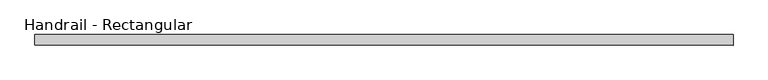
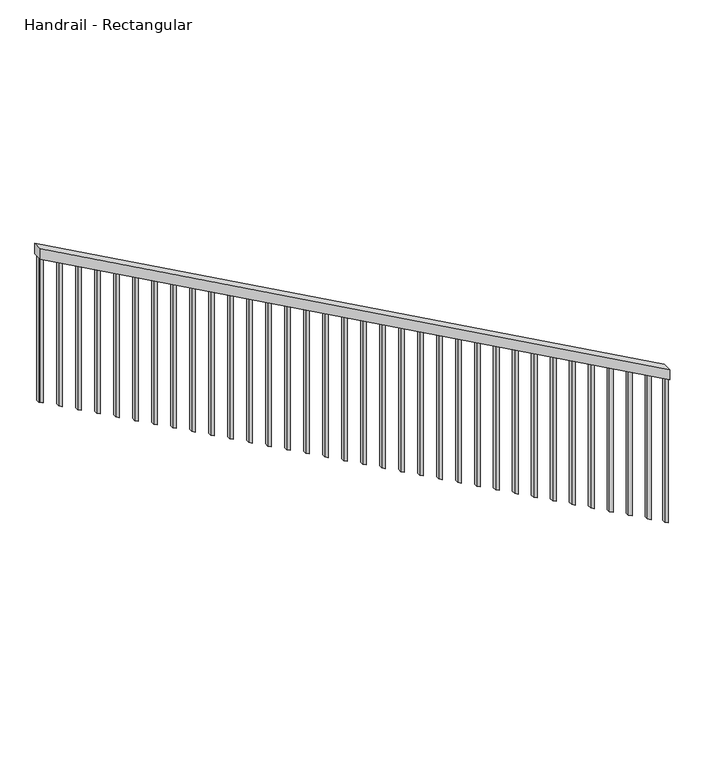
"""IFC4 building model written with IfcOpenShell, lengths in millimetres: railing geometry, Handrail - Rectangular."""

from ifc_helpers import new_model, si_unit, frame, origin, place, context, project, spatial, polyline, outline, extrude, source, transform, mapped, element, save


def handrail_rectangular_e08f16bb(model_context):
    return source(origin(), model_context, "Body", "SweptSolid", [
        extrude(outline(polyline([(4285.3496079, 92954.1951063), (4343.4, 92954.1951063), (6206.0666667, 89585.9544789), (6148.0162746, 89585.9544789), (4285.3496079, 92954.1951063)])), frame((0.0, 10368.4546943, 0.0), z_axis=(0.0, 1.0, 0.0), x_axis=(0.0, 0.0, 1.0)), (0.0, 0.0, 1.0), 50.8),
        extrude(outline(polyline([(6134.2100632, 89610.9201063), (6144.7448807, 89591.8701063), (5326.4432727, 89591.8701063), (5315.9084553, 89610.9201063), (6134.2100632, 89610.9201063)])), frame((0.0, 10384.3296943, 0.0), z_axis=(0.0, 1.0, 0.0), x_axis=(0.0, 0.0, 1.0)), (0.0, 0.0, 1.0), 19.05),
        extrude(outline(polyline([(6078.0243704, 89712.5201063), (6088.5591878, 89693.4701063), (5270.2575799, 89693.4701063), (5259.7227625, 89712.5201063), (6078.0243704, 89712.5201063)])), frame((0.0, 10384.3296943, 0.0), z_axis=(0.0, 1.0, 0.0), x_axis=(0.0, 0.0, 1.0)), (0.0, 0.0, 1.0), 19.05),
        extrude(outline(polyline([(6021.8386775, 89814.1201063), (6032.373495, 89795.0701063), (5214.071887, 89795.0701063), (5203.5370696, 89814.1201063), (6021.8386775, 89814.1201063)])), frame((0.0, 10384.3296943, 0.0), z_axis=(0.0, 1.0, 0.0), x_axis=(0.0, 0.0, 1.0)), (0.0, 0.0, 1.0), 19.05),
        extrude(outline(polyline([(5965.6529847, 89915.7201063), (5976.1878021, 89896.6701063), (5157.8861942, 89896.6701063), (5147.3513768, 89915.7201063), (5965.6529847, 89915.7201063)])), frame((0.0, 10384.3296943, 0.0), z_axis=(0.0, 1.0, 0.0), x_axis=(0.0, 0.0, 1.0)), (0.0, 0.0, 1.0), 19.05),
        extrude(outline(polyline([(5909.4672918, 90017.3201063), (5920.0021093, 89998.2701063), (5101.7005013, 89998.2701063), (5091.1656839, 90017.3201063), (5909.4672918, 90017.3201063)])), frame((0.0, 10384.3296943, 0.0), z_axis=(0.0, 1.0, 0.0), x_axis=(0.0, 0.0, 1.0)), (0.0, 0.0, 1.0), 19.05),
        extrude(outline(polyline([(5853.281599, 90118.9201063), (5863.8164164, 90099.8701063), (5045.5148085, 90099.8701063), (5034.9799911, 90118.9201063), (5853.281599, 90118.9201063)])), frame((0.0, 10384.3296943, 0.0), z_axis=(0.0, 1.0, 0.0), x_axis=(0.0, 0.0, 1.0)), (0.0, 0.0, 1.0), 19.05),
        extrude(outline(polyline([(5797.0959061, 90220.5201063), (5807.6307236, 90201.4701063), (4989.3291156, 90201.4701063), (4978.7942982, 90220.5201063), (5797.0959061, 90220.5201063)])), frame((0.0, 10384.3296943, 0.0), z_axis=(0.0, 1.0, 0.0), x_axis=(0.0, 0.0, 1.0)), (0.0, 0.0, 1.0), 19.05),
        extrude(outline(polyline([(5740.9102133, 90322.1201063), (5751.4450307, 90303.0701063), (4933.1434228, 90303.0701063), (4922.6086054, 90322.1201063), (5740.9102133, 90322.1201063)])), frame((0.0, 10384.3296943, 0.0), z_axis=(0.0, 1.0, 0.0), x_axis=(0.0, 0.0, 1.0)), (0.0, 0.0, 1.0), 19.05),
        extrude(outline(polyline([(5684.7245204, 90423.7201063), (5695.2593379, 90404.6701063), (4876.9577299, 90404.6701063), (4866.4229125, 90423.7201063), (5684.7245204, 90423.7201063)])), frame((0.0, 10384.3296943, 0.0), z_axis=(0.0, 1.0, 0.0), x_axis=(0.0, 0.0, 1.0)), (0.0, 0.0, 1.0), 19.05),
        extrude(outline(polyline([(5628.5388276, 90525.3201063), (5639.073645, 90506.2701063), (4820.7720371, 90506.2701063), (4810.2372197, 90525.3201063), (5628.5388276, 90525.3201063)])), frame((0.0, 10384.3296943, 0.0), z_axis=(0.0, 1.0, 0.0), x_axis=(0.0, 0.0, 1.0)), (0.0, 0.0, 1.0), 19.05),
        extrude(outline(polyline([(5572.3531348, 90626.9201063), (5582.8879522, 90607.8701063), (4764.5863443, 90607.8701063), (4754.0515268, 90626.9201063), (5572.3531348, 90626.9201063)])), frame((0.0, 10384.3296943, 0.0), z_axis=(0.0, 1.0, 0.0), x_axis=(0.0, 0.0, 1.0)), (0.0, 0.0, 1.0), 19.05),
        extrude(outline(polyline([(5516.1674419, 90728.5201063), (5526.7022593, 90709.4701063), (4708.4006514, 90709.4701063), (4697.865834, 90728.5201063), (5516.1674419, 90728.5201063)])), frame((0.0, 10384.3296943, 0.0), z_axis=(0.0, 1.0, 0.0), x_axis=(0.0, 0.0, 1.0)), (0.0, 0.0, 1.0), 19.05),
        extrude(outline(polyline([(5459.9817491, 90830.1201063), (5470.5165665, 90811.0701063), (4652.2149586, 90811.0701063), (4641.6801411, 90830.1201063), (5459.9817491, 90830.1201063)])), frame((0.0, 10384.3296943, 0.0), z_axis=(0.0, 1.0, 0.0), x_axis=(0.0, 0.0, 1.0)), (0.0, 0.0, 1.0), 19.05),
        extrude(outline(polyline([(5403.7960562, 90931.7201063), (5414.3308736, 90912.6701063), (4596.0292657, 90912.6701063), (4585.4944483, 90931.7201063), (5403.7960562, 90931.7201063)])), frame((0.0, 10384.3296943, 0.0), z_axis=(0.0, 1.0, 0.0), x_axis=(0.0, 0.0, 1.0)), (0.0, 0.0, 1.0), 19.05),
        extrude(outline(polyline([(5347.6103634, 91033.3201063), (5358.1451808, 91014.2701063), (4539.8435729, 91014.2701063), (4529.3087554, 91033.3201063), (5347.6103634, 91033.3201063)])), frame((0.0, 10384.3296943, 0.0), z_axis=(0.0, 1.0, 0.0), x_axis=(0.0, 0.0, 1.0)), (0.0, 0.0, 1.0), 19.05),
        extrude(outline(polyline([(5291.4246705, 91134.9201063), (5301.9594879, 91115.8701063), (4483.65788, 91115.8701063), (4473.1230626, 91134.9201063), (5291.4246705, 91134.9201063)])), frame((0.0, 10384.3296943, 0.0), z_axis=(0.0, 1.0, 0.0), x_axis=(0.0, 0.0, 1.0)), (0.0, 0.0, 1.0), 19.05),
        extrude(outline(polyline([(5235.2389777, 91236.5201063), (5245.7737951, 91217.4701063), (4427.4721872, 91217.4701063), (4416.9373697, 91236.5201063), (5235.2389777, 91236.5201063)])), frame((0.0, 10384.3296943, 0.0), z_axis=(0.0, 1.0, 0.0), x_axis=(0.0, 0.0, 1.0)), (0.0, 0.0, 1.0), 19.05),
        extrude(outline(polyline([(5179.0532848, 91338.1201063), (5189.5881022, 91319.0701063), (4371.2864943, 91319.0701063), (4360.7516769, 91338.1201063), (5179.0532848, 91338.1201063)])), frame((0.0, 10384.3296943, 0.0), z_axis=(0.0, 1.0, 0.0), x_axis=(0.0, 0.0, 1.0)), (0.0, 0.0, 1.0), 19.05),
        extrude(outline(polyline([(5122.867592, 91439.7201063), (5133.4024094, 91420.6701063), (4315.1008015, 91420.6701063), (4304.565984, 91439.7201063), (5122.867592, 91439.7201063)])), frame((0.0, 10384.3296943, 0.0), z_axis=(0.0, 1.0, 0.0), x_axis=(0.0, 0.0, 1.0)), (0.0, 0.0, 1.0), 19.05),
        extrude(outline(polyline([(5066.6818991, 91541.3201063), (5077.2167165, 91522.2701063), (4258.9151086, 91522.2701063), (4248.3802912, 91541.3201063), (5066.6818991, 91541.3201063)])), frame((0.0, 10384.3296943, 0.0), z_axis=(0.0, 1.0, 0.0), x_axis=(0.0, 0.0, 1.0)), (0.0, 0.0, 1.0), 19.05),
        extrude(outline(polyline([(5010.4962063, 91642.9201063), (5021.0310237, 91623.8701063), (4202.7294158, 91623.8701063), (4192.1945983, 91642.9201063), (5010.4962063, 91642.9201063)])), frame((0.0, 10384.3296943, 0.0), z_axis=(0.0, 1.0, 0.0), x_axis=(0.0, 0.0, 1.0)), (0.0, 0.0, 1.0), 19.05),
        extrude(outline(polyline([(4954.3105134, 91744.5201063), (4964.8453308, 91725.4701063), (4146.5437229, 91725.4701063), (4136.0089055, 91744.5201063), (4954.3105134, 91744.5201063)])), frame((0.0, 10384.3296943, 0.0), z_axis=(0.0, 1.0, 0.0), x_axis=(0.0, 0.0, 1.0)), (0.0, 0.0, 1.0), 19.05),
        extrude(outline(polyline([(4898.1248206, 91846.1201063), (4908.659638, 91827.0701063), (4090.3580301, 91827.0701063), (4079.8232127, 91846.1201063), (4898.1248206, 91846.1201063)])), frame((0.0, 10384.3296943, 0.0), z_axis=(0.0, 1.0, 0.0), x_axis=(0.0, 0.0, 1.0)), (0.0, 0.0, 1.0), 19.05),
        extrude(outline(polyline([(4841.9391277, 91947.7201063), (4852.4739451, 91928.6701063), (4034.1723372, 91928.6701063), (4023.6375198, 91947.7201063), (4841.9391277, 91947.7201063)])), frame((0.0, 10384.3296943, 0.0), z_axis=(0.0, 1.0, 0.0), x_axis=(0.0, 0.0, 1.0)), (0.0, 0.0, 1.0), 19.05),
        extrude(outline(polyline([(4785.7534349, 92049.3201063), (4796.2882523, 92030.2701063), (3977.9866444, 92030.2701063), (3967.451827, 92049.3201063), (4785.7534349, 92049.3201063)])), frame((0.0, 10384.3296943, 0.0), z_axis=(0.0, 1.0, 0.0), x_axis=(0.0, 0.0, 1.0)), (0.0, 0.0, 1.0), 19.05),
        extrude(outline(polyline([(4729.567742, 92150.9201063), (4740.1025594, 92131.8701063), (3921.8009515, 92131.8701063), (3911.2661341, 92150.9201063), (4729.567742, 92150.9201063)])), frame((0.0, 10384.3296943, 0.0), z_axis=(0.0, 1.0, 0.0), x_axis=(0.0, 0.0, 1.0)), (0.0, 0.0, 1.0), 19.05),
        extrude(outline(polyline([(4673.3820492, 92252.5201063), (4683.9168666, 92233.4701063), (3865.6152587, 92233.4701063), (3855.0804413, 92252.5201063), (4673.3820492, 92252.5201063)])), frame((0.0, 10384.3296943, 0.0), z_axis=(0.0, 1.0, 0.0), x_axis=(0.0, 0.0, 1.0)), (0.0, 0.0, 1.0), 19.05),
        extrude(outline(polyline([(4617.1963563, 92354.1201063), (4627.7311737, 92335.0701063), (3809.4295658, 92335.0701063), (3798.8947484, 92354.1201063), (4617.1963563, 92354.1201063)])), frame((0.0, 10384.3296943, 0.0), z_axis=(0.0, 1.0, 0.0), x_axis=(0.0, 0.0, 1.0)), (0.0, 0.0, 1.0), 19.05),
        extrude(outline(polyline([(4561.0106635, 92455.7201063), (4571.5454809, 92436.6701063), (3753.243873, 92436.6701063), (3742.7090556, 92455.7201063), (4561.0106635, 92455.7201063)])), frame((0.0, 10384.3296943, 0.0), z_axis=(0.0, 1.0, 0.0), x_axis=(0.0, 0.0, 1.0)), (0.0, 0.0, 1.0), 19.05),
        extrude(outline(polyline([(4504.8249706, 92557.3201063), (4515.359788, 92538.2701063), (3697.0581801, 92538.2701063), (3686.5233627, 92557.3201063), (4504.8249706, 92557.3201063)])), frame((0.0, 10384.3296943, 0.0), z_axis=(0.0, 1.0, 0.0), x_axis=(0.0, 0.0, 1.0)), (0.0, 0.0, 1.0), 19.05),
        extrude(outline(polyline([(4448.6392778, 92658.9201063), (4459.1740952, 92639.8701063), (3640.8724873, 92639.8701063), (3630.3376699, 92658.9201063), (4448.6392778, 92658.9201063)])), frame((0.0, 10384.3296943, 0.0), z_axis=(0.0, 1.0, 0.0), x_axis=(0.0, 0.0, 1.0)), (0.0, 0.0, 1.0), 19.05),
        extrude(outline(polyline([(4392.4535849, 92760.5201063), (4402.9884023, 92741.4701063), (3584.6867944, 92741.4701063), (3574.151977, 92760.5201063), (4392.4535849, 92760.5201063)])), frame((0.0, 10384.3296943, 0.0), z_axis=(0.0, 1.0, 0.0), x_axis=(0.0, 0.0, 1.0)), (0.0, 0.0, 1.0), 19.05),
        extrude(outline(polyline([(4336.2678921, 92862.1201063), (4346.8027095, 92843.0701063), (3528.5011016, 92843.0701063), (3517.9662842, 92862.1201063), (4336.2678921, 92862.1201063)])), frame((0.0, 10384.3296943, 0.0), z_axis=(0.0, 1.0, 0.0), x_axis=(0.0, 0.0, 1.0)), (0.0, 0.0, 1.0), 19.05),
        extrude(outline(polyline([(6137.4814572, 89605.0044789), (6148.0162746, 89585.9544789), (5329.7146667, 89585.9544789), (5319.1798493, 89605.0044789), (6137.4814572, 89605.0044789)])), frame((0.0, 10384.3296943, 0.0), z_axis=(0.0, 1.0, 0.0), x_axis=(0.0, 0.0, 1.0)), (0.0, 0.0, 1.0), 19.05),
        extrude(outline(polyline([(4285.3496079, 92954.1951063), (4295.8844253, 92935.1451063), (3477.5828174, 92935.1451063), (3467.048, 92954.1951063), (4285.3496079, 92954.1951063)])), frame((0.0, 10384.3296943, 0.0), z_axis=(0.0, 1.0, 0.0), x_axis=(0.0, 0.0, 1.0)), (0.0, 0.0, 1.0), 19.05),
    ])


if __name__ == "__main__":
    model = new_model("IFC4")
    model_context = context("Model", 3, world=origin())
    ifc_project = project(units=[si_unit("LENGTHUNIT", "METRE", prefix="MILLI")], contexts=[model_context])
    site = spatial("IfcSite", under=ifc_project)
    building = spatial("IfcBuilding", under=site)
    placement = place(None, origin())
    handrail_rectangular_shape = handrail_rectangular_e08f16bb(model_context)
    element("IfcRailing", 1, ObjectType="Handrail - Rectangular", at=placement, inside=building, context=model_context, shape_type="MappedRepresentation", body=[
        mapped(handrail_rectangular_shape, transform((0.0, 0.0, 0.0), x_axis=(1.0, 0.0, 0.0), y_axis=(0.0, 1.0, 0.0), z_axis=(0.0, 0.0, 1.0))),
    ])
    save(model, "model.ifc")
